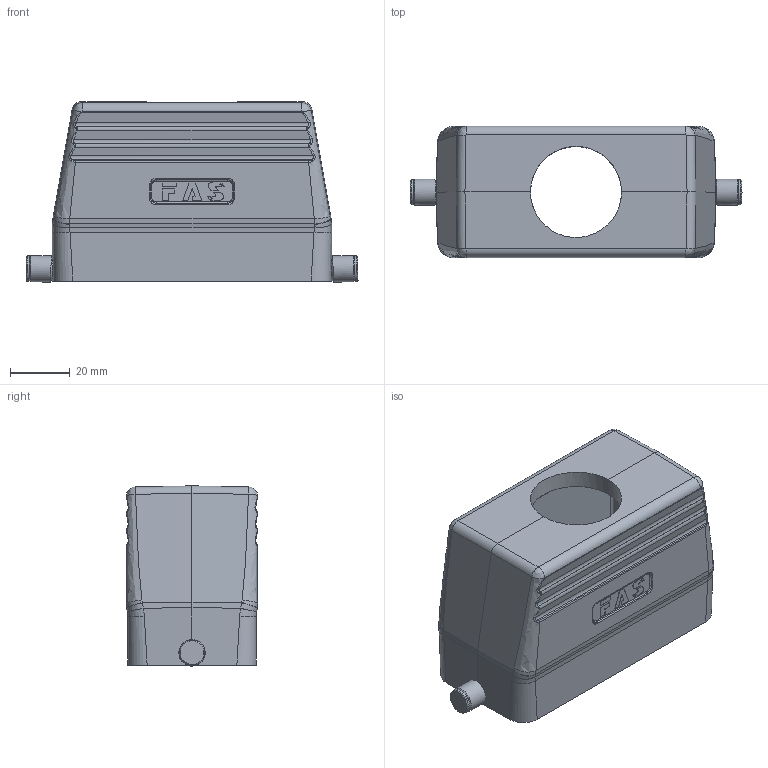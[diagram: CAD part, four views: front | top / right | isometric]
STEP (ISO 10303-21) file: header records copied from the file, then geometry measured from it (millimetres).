
FILE_DESCRIPTION (( 'STEP AP203' ), '1' );
FILE_NAME ('H16B-TG-RO-M32.STEP', '2023-06-07T08:59:04', ( '' ), ( '' ), 'SwSTEP 2.0', 'SolidWorks 2016', '' );
FILE_SCHEMA (( 'CONFIG_CONTROL_DESIGN' ));
Length unit declared in the file: millimetre
Products named in the file (1): H16B-TG-RO-M32
Bounding box: 111.17 x 44 x 60.35 mm (x, y, z)
Volume: 72015 mm3; surface area: 35126.9 mm2
Topology: 1 solids, 1 shells, 504 faces, 1231 edges, 756 vertices
Faces by surface type: plane 179, cylinder 149, bspline 128, cone 28, torus 16, sphere 4
Full cylindrical faces by diameter (mm): 2 x2, 3 x2, 4.8 x2, 5 x2, 8.5 x2, 8.8 x2, 30.5 x1
Entity records: 22979 total; most frequent: CARTESIAN_POINT 12617, ORIENTED_EDGE 2352, DIRECTION 1732, EDGE_CURVE 1176, VERTEX_POINT 742, AXIS2_PLACEMENT_3D 608, EDGE_LOOP 578, FACE_OUTER_BOUND 517
